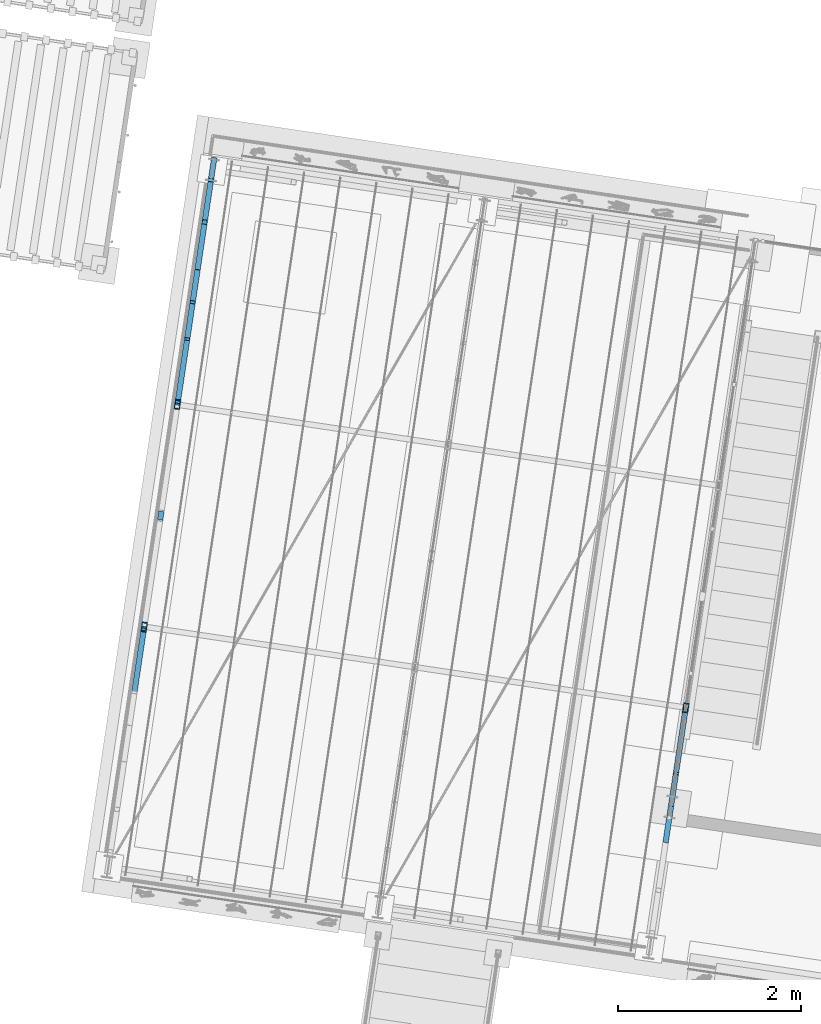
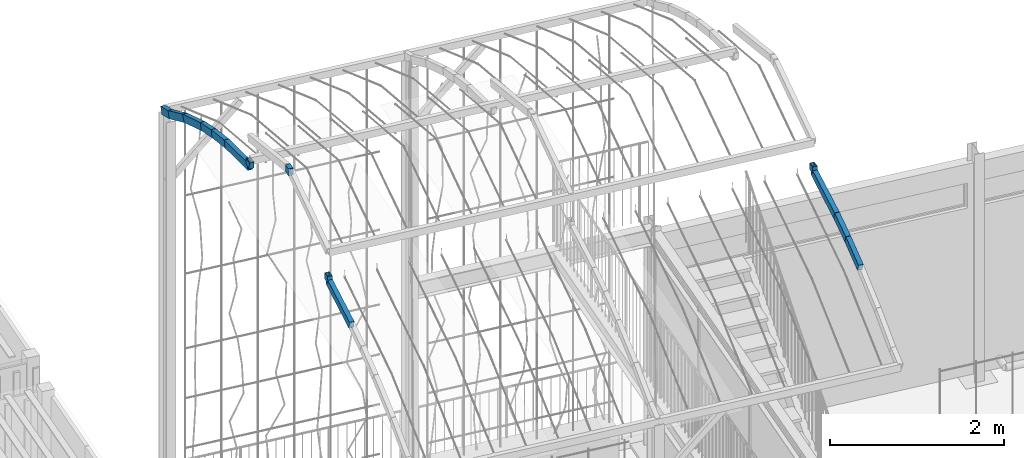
# One storey, part 106 of 142: 14 members, 1 element without a shape of its own.
"""IFC4 building model written with IfcOpenShell, lengths in metres."""

from ifc_helpers import new_model, si_unit, direction, frame, origin_with_axes, place, context, subcontext, project, spatial, hollow_rectangle, extrude, material, material_profile, profile_set, profile_usage, type_object, element, aggregate, save


model = new_model("IFC4")

# Units and contexts
model_context = context("Model", 3, precision=1e-05, world=origin_with_axes(), true_north=direction((0.0, 1.0)))
body_context = subcontext(model_context, "Body", "Model", "MODEL_VIEW")
ifc_project = project(units=[si_unit("VOLUMEUNIT", "CUBIC_METRE"), si_unit("LENGTHUNIT", "METRE"), si_unit("AREAUNIT", "SQUARE_METRE")], contexts=[model_context])

# Site, building, storey
site_placement = place(None, origin_with_axes())
site = spatial("IfcSite", under=ifc_project, at=site_placement, Name="Lares · Rua das Mercês · artigo 4771")
building_placement = place(site_placement, frame((12.0, 10.2, 13.9), z_axis=(0.0, 0.0, 1.0), x_axis=(0.989015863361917, -0.147809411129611, 0.0)))
building = spatial("IfcBuilding", under=site, at=building_placement, Name="Casa Sobreposta")
storey_placement = place(building_placement, origin_with_axes())
storey = spatial("IfcBuildingStorey", under=building, at=storey_placement, Name="00 · Habitação e estacionamento", Elevation=13.9)

# Assembly, members
assembly_placement = place(storey_placement, origin_with_axes())
assembly = element("IfcElementAssembly", 1, at=assembly_placement, inside=storey, Name="Pérgola · prolongamento da estufa 6 m", ObjectType="PERGOLA_GREENHOUSE_EXTENSION", PredefinedType="USERDEFINED")
ifc_material = material(Name="Aço pintado / Stahl lackiert", Category="steel")
ifc_material_profile = material_profile(ifc_material, hollow_rectangle(XDim=0.06, YDim=0.1, WallThickness=0.004))
ifc_profile_set = profile_set([ifc_material_profile], Name="RHS100x60x4")
ifc_profile_usage_1 = profile_usage(ifc_profile_set)
member_type = type_object("IfcMemberType", Name="RHS100x60x4 / steel", PredefinedType="NOTDEFINED", material=ifc_profile_set)
member_1_placement = place(assembly_placement, frame((-6.0, 0.493171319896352, 7.05943931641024), z_axis=(0.0, 0.977995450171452, 0.208626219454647), x_axis=(1.0, 0.0, 0.0)))
member_1 = element("IfcMember", 2, at=member_1_placement, type_object=member_type, material=ifc_profile_usage_1, Name="Pérgola · arco contínuo com a estufa", context=body_context, shape_type="SweptSolid", body=[
    extrude(hollow_rectangle(XDim=0.06, YDim=0.1, WallThickness=0.004), origin_with_axes(), (0.0, 0.0, 1.0), 0.737465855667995),
])
ifc_profile_usage_2 = profile_usage(ifc_profile_set)
member_2_placement = place(assembly_placement, frame((-6.0, 1.21440957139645, 7.21329402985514), z_axis=(0.0, 0.0686229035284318, 0.997642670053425), x_axis=(1.0, 0.0, 0.0)))
member_2 = element("IfcMember", 3, at=member_2_placement, type_object=member_type, material=ifc_profile_usage_2, Name="Pérgola · arco contínuo com a estufa", context=body_context, shape_type="SweptSolid", body=[
    extrude(hollow_rectangle(XDim=0.06, YDim=0.1, WallThickness=0.004), origin_with_axes(), (0.0, 0.0, 1.0), 0.0875893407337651),
])
ifc_profile_usage_3 = profile_usage(ifc_profile_set)
member_3_placement = place(assembly_placement, frame((-6.0, 2.40274082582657, 7.96518238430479), z_axis=(0.0, 1.0, 0.0), x_axis=(1.0, 0.0, 0.0)))
member_3 = element("IfcMember", 4, at=member_3_placement, type_object=member_type, material=ifc_profile_usage_3, Name="Pérgola · arco contínuo com a estufa", context=body_context, shape_type="SweptSolid", body=[
    extrude(hollow_rectangle(XDim=0.06, YDim=0.1, WallThickness=0.004), origin_with_axes(), (0.0, 0.0, 1.0), 0.0949594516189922),
])
ifc_profile_usage_4 = profile_usage(ifc_profile_set)
member_4_placement = place(assembly_placement, frame((-6.0, 3.68002089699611, 7.30067689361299), z_axis=(0.0, 0.0651953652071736, -0.997872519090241), x_axis=(1.0, 0.0, 0.0)))
member_4 = element("IfcMember", 5, at=member_4_placement, type_object=member_type, material=ifc_profile_usage_4, Name="Pérgola · arco contínuo com a estufa", context=body_context, shape_type="SweptSolid", body=[
    extrude(hollow_rectangle(XDim=0.06, YDim=0.1, WallThickness=0.004), origin_with_axes(), (0.0, 0.0, 1.0), 0.0875840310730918),
])
ifc_profile_usage_5 = profile_usage(ifc_profile_set)
member_5_placement = place(assembly_placement, frame((-6.0, 3.68573096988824, 7.21327919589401), z_axis=(0.0, 0.977996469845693, -0.208621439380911), x_axis=(1.0, 0.0, 0.0)))
member_5 = element("IfcMember", 6, at=member_5_placement, type_object=member_type, material=ifc_profile_usage_5, Name="Pérgola · arco contínuo com a estufa", context=body_context, shape_type="SweptSolid", body=[
    extrude(hollow_rectangle(XDim=0.06, YDim=0.1, WallThickness=0.004), origin_with_axes(), (0.0, 0.0, 1.0), 0.737400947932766),
])
ifc_profile_usage_6 = profile_usage(ifc_profile_set)
member_6_placement = place(assembly_placement, frame((-6.0, 4.40690649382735, 7.05944154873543), z_axis=(0.0, 0.958508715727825, -0.285063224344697), x_axis=(1.0, 0.0, 0.0)))
member_6 = element("IfcMember", 7, at=member_6_placement, type_object=member_type, material=ifc_profile_usage_6, Name="Pérgola · arco contínuo com a estufa", context=body_context, shape_type="SweptSolid", body=[
    extrude(hollow_rectangle(XDim=0.06, YDim=0.1, WallThickness=0.004), origin_with_axes(), (0.0, 0.0, 1.0), 0.426177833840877),
])
ifc_profile_usage_7 = profile_usage(ifc_profile_set)
member_7_placement = place(assembly_placement, frame((-6.0, 4.81540166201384, 6.93795392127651), z_axis=(0.0, 0.941396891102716, -0.337300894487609), x_axis=(1.0, 0.0, 0.0)))
member_7 = element("IfcMember", 8, at=member_7_placement, type_object=member_type, material=ifc_profile_usage_7, Name="Pérgola · arco contínuo com a estufa", context=body_context, shape_type="SweptSolid", body=[
    extrude(hollow_rectangle(XDim=0.06, YDim=0.1, WallThickness=0.004), origin_with_axes(), (0.0, 0.0, 1.0), 0.362337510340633),
])
ifc_profile_usage_8 = profile_usage(ifc_profile_set)
member_8_placement = place(assembly_placement, frame((-6.0, 5.15650506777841, 6.8157371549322), z_axis=(0.0, 0.915895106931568, -0.401417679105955), x_axis=(1.0, 0.0, 0.0)))
member_8 = element("IfcMember", 9, at=member_8_placement, type_object=member_type, material=ifc_profile_usage_8, Name="Pérgola · arco contínuo com a estufa", context=body_context, shape_type="SweptSolid", body=[
    extrude(hollow_rectangle(XDim=0.06, YDim=0.1, WallThickness=0.004), origin_with_axes(), (0.0, 0.0, 1.0), 0.596721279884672),
])
ifc_profile_usage_9 = profile_usage(ifc_profile_set)
member_9_placement = place(assembly_placement, frame((-6.0, 5.70303916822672, 6.57620268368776), z_axis=(0.0, 0.878867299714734, -0.477066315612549), x_axis=(1.0, 0.0, 0.0)))
member_9 = element("IfcMember", 10, at=member_9_placement, type_object=member_type, material=ifc_profile_usage_9, Name="Pérgola · arco contínuo com a estufa", context=body_context, shape_type="SweptSolid", body=[
    extrude(hollow_rectangle(XDim=0.06, YDim=0.1, WallThickness=0.004), origin_with_axes(), (0.0, 0.0, 1.0), 0.52859183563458),
])
ifc_profile_usage_10 = profile_usage(ifc_profile_set)
member_10_placement = place(assembly_placement, frame((-6.0, 6.16760124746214, 6.3240293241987), z_axis=(0.0, 0.932880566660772, -0.360185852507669), x_axis=(1.0, 0.0, 0.0)))
member_10 = element("IfcMember", 11, at=member_10_placement, type_object=member_type, material=ifc_profile_usage_10, Name="Pérgola · arco contínuo com a estufa", context=body_context, shape_type="SweptSolid", body=[
    extrude(hollow_rectangle(XDim=0.06, YDim=0.1, WallThickness=0.004), origin_with_axes(), (0.0, 0.0, 1.0), 0.249119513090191),
])
ifc_profile_usage_11 = profile_usage(ifc_profile_set)
member_11_placement = place(assembly_placement, frame((0.0, -0.256488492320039, 6.81570306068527), z_axis=(0.0, 0.942820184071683, 0.333301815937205), x_axis=(1.0, 0.0, 0.0)))
member_11 = element("IfcMember", 12, at=member_11_placement, type_object=member_type, material=ifc_profile_usage_11, Name="Pérgola · arco contínuo com a estufa", context=body_context, shape_type="SweptSolid", body=[
    extrude(hollow_rectangle(XDim=0.06, YDim=0.1, WallThickness=0.004), origin_with_axes(), (0.0, 0.0, 1.0), 0.423025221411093),
])
ifc_profile_usage_12 = profile_usage(ifc_profile_set)
member_12_placement = place(assembly_placement, frame((0.0, 0.142348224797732, 6.95669813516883), z_axis=(0.0, 0.959692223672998, 0.281053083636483), x_axis=(1.0, 0.0, 0.0)))
member_12 = element("IfcMember", 13, at=member_12_placement, type_object=member_type, material=ifc_profile_usage_12, Name="Pérgola · arco contínuo com a estufa", context=body_context, shape_type="SweptSolid", body=[
    extrude(hollow_rectangle(XDim=0.06, YDim=0.1, WallThickness=0.004), origin_with_axes(), (0.0, 0.0, 1.0), 0.365557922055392),
])
ifc_profile_usage_13 = profile_usage(ifc_profile_set)
member_13_placement = place(assembly_placement, frame((0.0, 0.493171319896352, 7.05943931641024), z_axis=(0.0, 0.977995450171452, 0.208626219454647), x_axis=(1.0, 0.0, 0.0)))
member_13 = element("IfcMember", 14, at=member_13_placement, type_object=member_type, material=ifc_profile_usage_13, Name="Pérgola · arco contínuo com a estufa", context=body_context, shape_type="SweptSolid", body=[
    extrude(hollow_rectangle(XDim=0.06, YDim=0.1, WallThickness=0.004), origin_with_axes(), (0.0, 0.0, 1.0), 0.737465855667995),
])
ifc_profile_usage_14 = profile_usage(ifc_profile_set)
member_14_placement = place(assembly_placement, frame((0.0, 1.21440957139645, 7.21329402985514), z_axis=(0.0, 0.0686229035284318, 0.997642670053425), x_axis=(1.0, 0.0, 0.0)))
member_14 = element("IfcMember", 15, at=member_14_placement, type_object=member_type, material=ifc_profile_usage_14, Name="Pérgola · arco contínuo com a estufa", context=body_context, shape_type="SweptSolid", body=[
    extrude(hollow_rectangle(XDim=0.06, YDim=0.1, WallThickness=0.004), origin_with_axes(), (0.0, 0.0, 1.0), 0.0875893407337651),
])
aggregate(assembly, [member_1, member_2, member_3, member_4, member_5, member_6, member_7, member_8, member_9, member_10, member_11, member_12, member_13, member_14])

save(model, "model.ifc")
